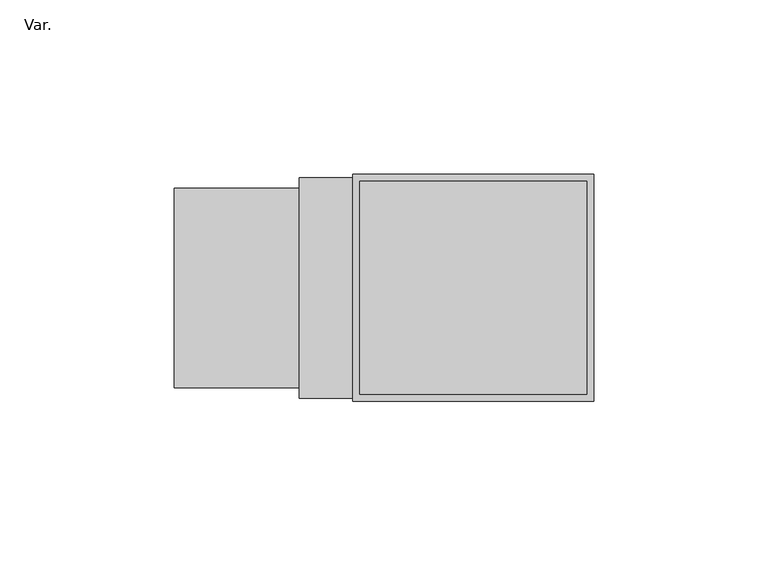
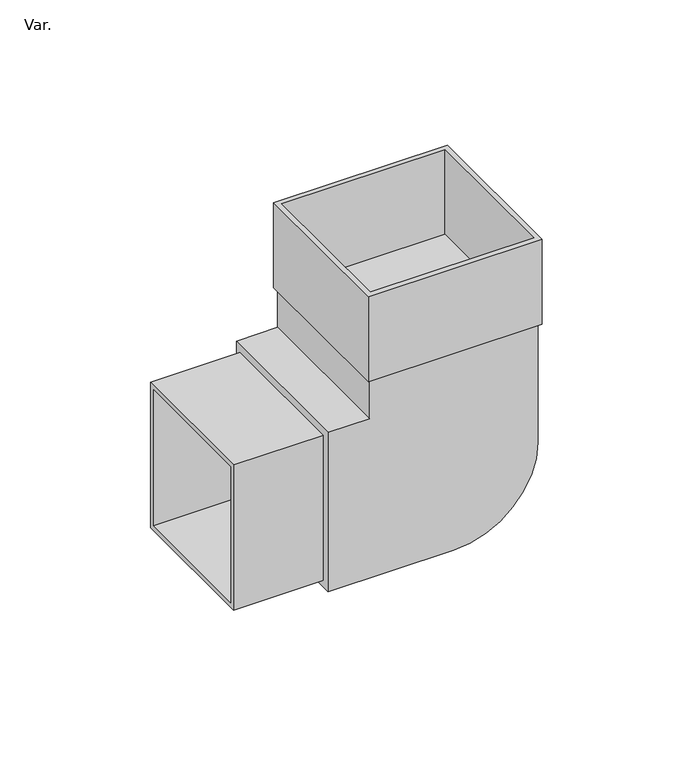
"""IFC4 building model written with IfcOpenShell, lengths in millimetres: pipe fitting geometry, PlastigamaWavin_Unionesdetubería_CanalesyBajantes_Codo90deBajante : Var.."""

from ifc_helpers import new_model, si_unit, point, frame, origin, origin_2d, place, context, project, spatial, polyline, circle_curve, trimmed, segment, composite_curve, outline, extrude, source, transform, mapped, element, save


def var_91e2d34d(model_context):
    return source(origin(), model_context, "Body", "SweptSolid", [
        extrude(outline(composite_curve([segment(polyline([(33.55, -50.0), (-33.55, -50.0), (-33.55, 0.0)]), True, "CONTINUOUS"), segment(trimmed(circle_curve(origin_2d(), 33.55), [point((-33.55, 0.0))], [point((0.0, 33.55))], False, "CARTESIAN"), True, "CONTINUOUS"), segment(polyline([(0.0, 33.55), (50.0, 33.55), (50.0, -33.55), (33.55, -33.55), (33.55, -50.0)]), True, "CONTINUOUS")], self_intersect=False)), frame((0.0, -31.605, 0.0), z_axis=(0.0, 1.0, 0.0), x_axis=(0.0, 0.0, 1.0)), (0.0, 0.0, 1.0), 63.21),
        extrude(outline(polyline([(-28.63, 30.57), (28.63, 30.57), (28.63, -30.57), (-28.63, -30.57), (-28.63, 30.57)]), holes=[polyline([(-26.63, 28.57), (-26.63, -28.57), (26.63, -28.57), (26.63, 28.57), (-26.63, 28.57)])]), frame((-85.85, 0.0, 0.0), z_axis=(1.0, 0.0, 0.0), x_axis=(0.0, 1.0, 0.0)), (0.0, 0.0, 1.0), 35.85),
        extrude(outline(polyline([(34.55, 32.605), (34.55, -32.605), (-34.55, -32.605), (-34.55, 32.605), (34.55, 32.605)]), holes=[polyline([(32.55, 30.605), (-32.55, 30.605), (-32.55, -30.605), (32.55, -30.605), (32.55, 30.605)])]), frame((0.0, 0.0, 50.0), z_axis=(0.0, 0.0, 1.0), x_axis=(1.0, 0.0, 0.0)), (0.0, 0.0, 1.0), 35.85),
    ])


if __name__ == "__main__":
    model = new_model("IFC4")
    model_context = context("Model", 3, world=origin())
    ifc_project = project(units=[si_unit("LENGTHUNIT", "METRE", prefix="MILLI")], contexts=[model_context])
    site = spatial("IfcSite", under=ifc_project)
    building = spatial("IfcBuilding", under=site)
    placement = place(None, origin())
    var_shape = var_91e2d34d(model_context)
    element("IfcPipeFitting", 1, ObjectType="PlastigamaWavin_Unionesdetubería_CanalesyBajantes_Codo90deBajante : Var.", at=placement, inside=building, context=model_context, shape_type="MappedRepresentation", body=[
        mapped(var_shape, transform((0.0, 0.0, 0.0), x_axis=(1.0, 0.0, 0.0), y_axis=(0.0, 1.0, 0.0), z_axis=(0.0, 0.0, 1.0))),
    ])
    save(model, "model.ifc")
